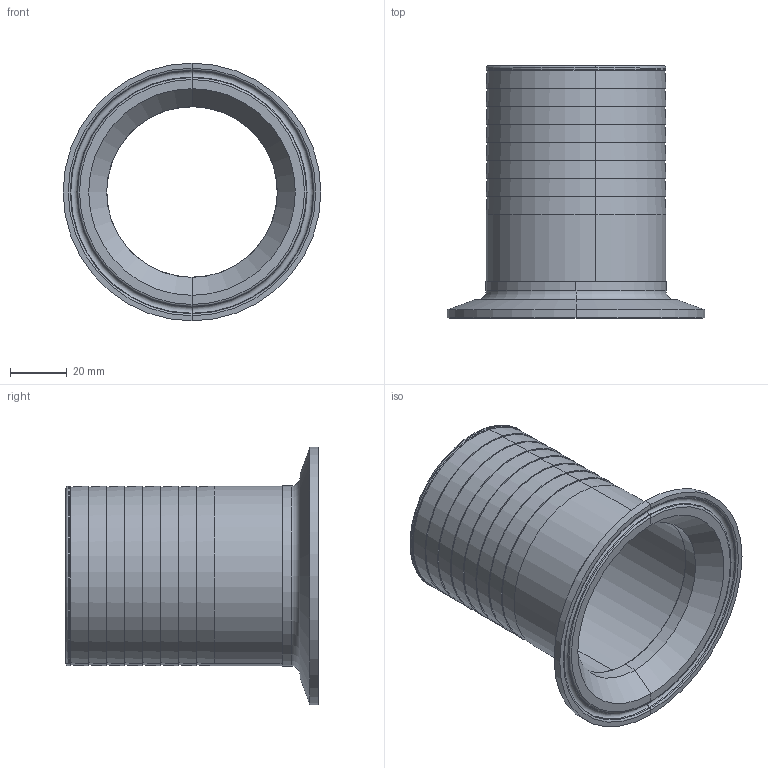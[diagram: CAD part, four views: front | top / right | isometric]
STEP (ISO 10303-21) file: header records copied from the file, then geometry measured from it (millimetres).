
FILE_DESCRIPTION (( 'STEP AP203' ), '1' );
FILE_NAME ('EG14RT3.0X2.5.STEP', '2018-05-11T12:38:09', ( 'vneprd' ), ( 'Microsoft' ), 'SwSTEP 2.0', 'SolidWorks 2014', '' );
FILE_SCHEMA (( 'CONFIG_CONTROL_DESIGN' ));
Length unit declared in the file: inch
Products named in the file (3): V14RH2.5; EG14RT3.0X2.5; EG2CS31D3.0X2.5
Assembly tree (2 placements, depth 2):
  EG14RT3.0X2.5
    EG2CS31D3.0X2.5
    V14RH2.5
Bounding box: 90.91 x 88.9 x 90.91 mm (x, y, z)
Volume: 37694.8 mm3; surface area: 42082.4 mm2
Topology: 2 solids, 2 shells, 64 faces, 128 edges, 76 vertices
Faces by surface type: cone 28, cylinder 12, torus 12, plane 12
Entity records: 1995 total; most frequent: DIRECTION 354, CARTESIAN_POINT 273, ORIENTED_EDGE 256, AXIS2_PLACEMENT_3D 157, EDGE_CURVE 128, CIRCLE 88, VERTEX_POINT 76, EDGE_LOOP 76
